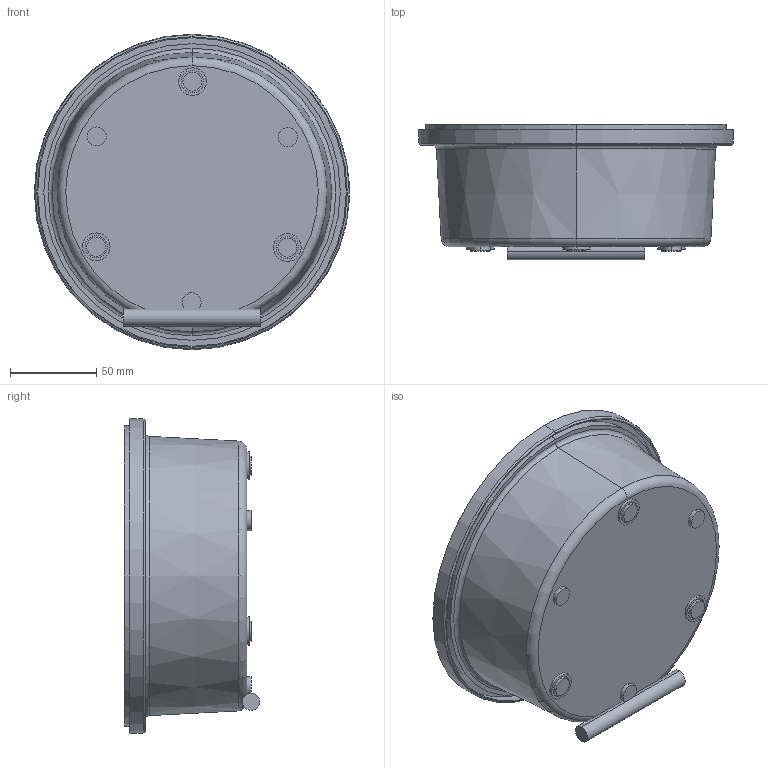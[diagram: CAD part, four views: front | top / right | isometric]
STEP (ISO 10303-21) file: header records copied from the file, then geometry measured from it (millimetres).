
FILE_DESCRIPTION (( 'STEP AP203' ), '1' );
FILE_NAME ('Carter embase simplifié_2_Défaut_sldprt.STEP', '2018-04-06T14:28:40', ( '' ), ( '' ), 'SwSTEP 2.0', 'SolidWorks 2013', '' );
FILE_SCHEMA (( 'CONFIG_CONTROL_DESIGN' ));
Length unit declared in the file: millimetre
Products named in the file (1): Carter embase simplifié_2_Défaut_sldprt
Bounding box: 182.92 x 78.5 x 182.94 mm (x, y, z)
Volume: 129986.5 mm3; surface area: 126504 mm2
Topology: 1 solids, 1 shells, 86 faces, 183 edges, 118 vertices
Faces by surface type: cylinder 33, plane 31, cone 12, torus 10
Entity records: 2593 total; most frequent: CARTESIAN_POINT 566, DIRECTION 458, ORIENTED_EDGE 366, AXIS2_PLACEMENT_3D 198, EDGE_CURVE 183, VERTEX_POINT 118, CIRCLE 111, EDGE_LOOP 105
